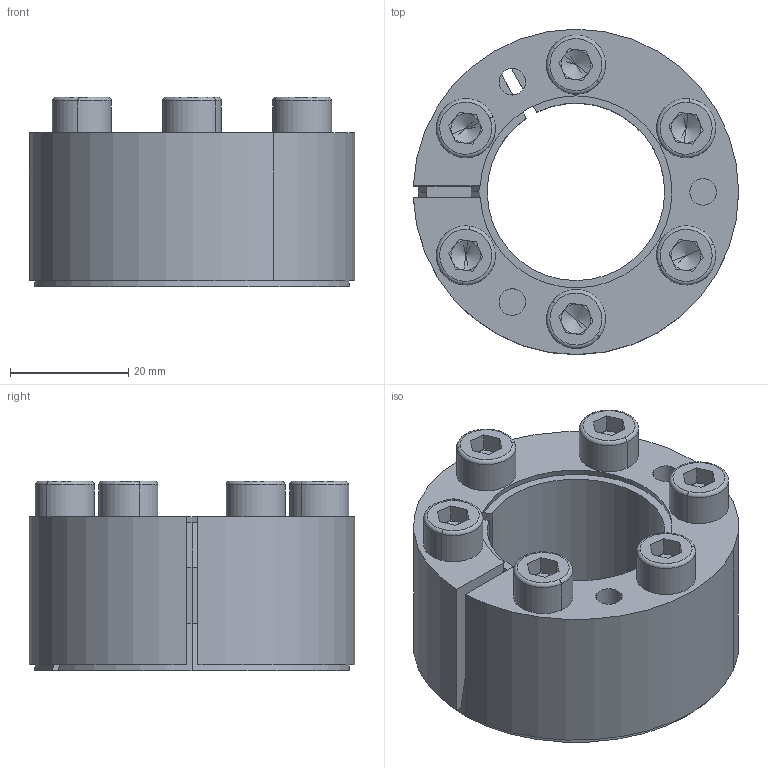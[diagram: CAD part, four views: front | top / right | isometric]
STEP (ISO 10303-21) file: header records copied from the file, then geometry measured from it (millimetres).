
FILE_DESCRIPTION (( 'STEP AP214' ), '1' );
FILE_NAME ('CONEX-K-30x55.step', '2013-04-06T13:21:01', ( 'Pc' ), ( '' ), 'SwSTEP 2.0', 'SolidWorks 2013', '' );
FILE_SCHEMA (( 'AUTOMOTIVE_DESIGN' ));
Length unit declared in the file: millimetre
Products named in the file (1): CONEX-K-30x55
Bounding box: 54.98 x 55 x 32.02 mm (x, y, z)
Volume: 36108.9 mm3; surface area: 25587.3 mm2
Topology: 8 solids, 8 shells, 226 faces, 524 edges, 314 vertices
Faces by surface type: plane 100, cylinder 66, cone 36, torus 24
Entity records: 8977 total; most frequent: DIRECTION 1204, CARTESIAN_POINT 1077, ORIENTED_EDGE 1024, EDGE_CURVE 512, AXIS2_PLACEMENT_3D 473, VERTEX_POINT 314, EDGE_LOOP 268, LINE 258
